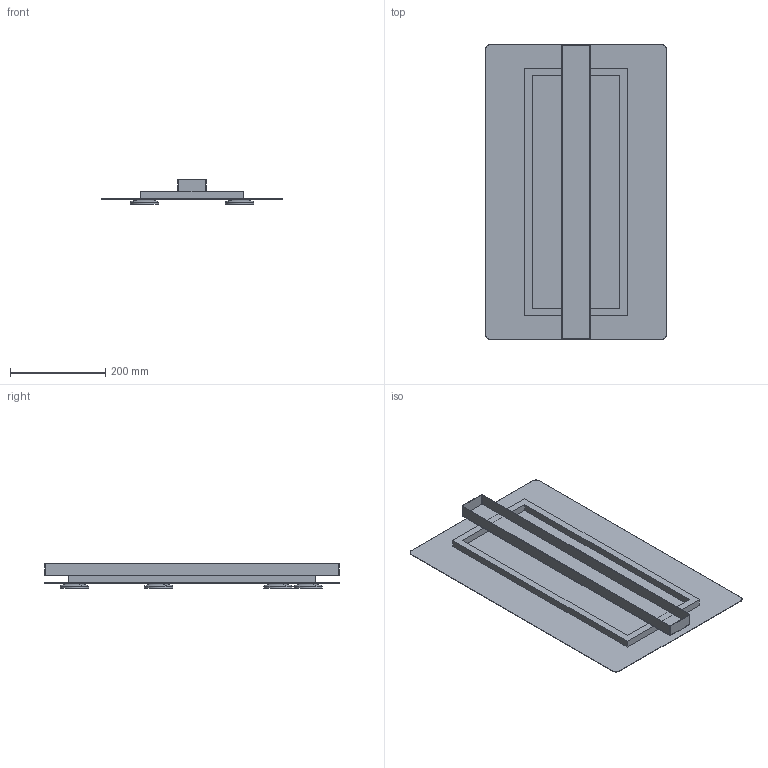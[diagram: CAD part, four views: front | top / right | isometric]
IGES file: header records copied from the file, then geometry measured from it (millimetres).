
Global section: file name: C:\Marek\TuXka\Liczy siX sXowo\_Modelowanie SIGMA\ARGON\paczka\Argon 4 prostokXt\Argon 4.igs; native system: HarmonyWare Translators; preprocessor: HarmonyWare IGES v1.7.11; date: 20220105.083842; units: centimetre
Bounding box: 380 x 620 x 51.89 mm (x, y, z)
Surface area: 728393 mm2 (no closed solid volume)
Topology: 0 solids, 0 shells, 63 faces, 436 edges, 404 vertices
Faces by surface type: bspline 63
